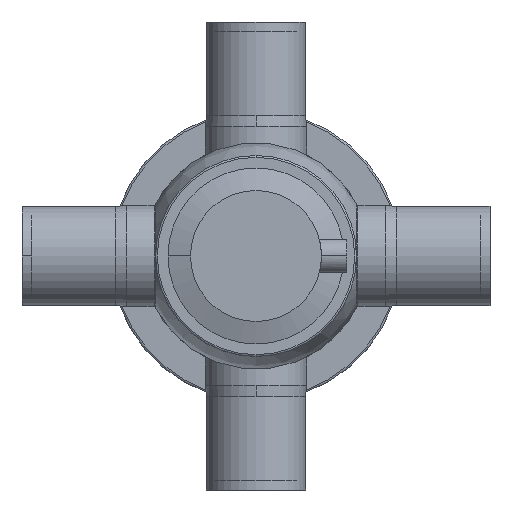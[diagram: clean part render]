
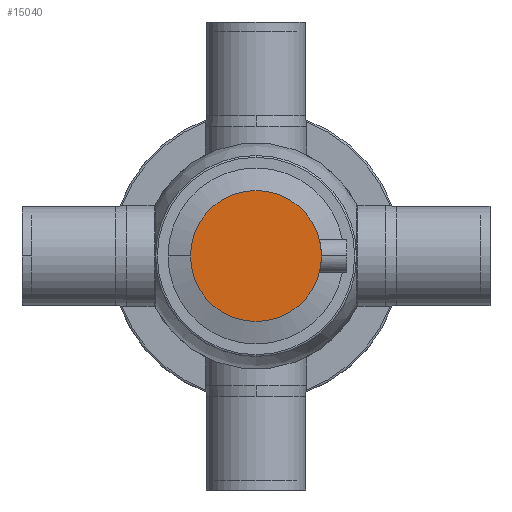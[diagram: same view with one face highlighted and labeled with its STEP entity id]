
A CAD part, front view. The second image highlights one B-rep face of the part: STEP entity #15040.
In plain terms, the highlighted planar face has unit normal (0, -1, 0).
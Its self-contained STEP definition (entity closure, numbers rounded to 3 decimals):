
#9530=CARTESIAN_POINT('',(-35.,-92.85,0.));
#9540=VERTEX_POINT('',#9530);
#9570=CARTESIAN_POINT('',(0.,-92.85,0.));
#9580=DIRECTION('',(0.,-1.,0.));
#9590=DIRECTION('',(-1.,0.,0.));
#9600=AXIS2_PLACEMENT_3D('',#9570,#9580,#9590);
#9610=CIRCLE('',#9600,35.);
#9620=CARTESIAN_POINT('',(35.,-92.85,0.));
#9630=VERTEX_POINT('',#9620);
#9640=EDGE_CURVE('',#9540,#9630,#9610,.T.);
#14940=CARTESIAN_POINT('',(0.,-92.85,0.));
#14950=DIRECTION('',(0.,-1.,0.));
#14960=DIRECTION('',(-1.,0.,0.));
#14970=AXIS2_PLACEMENT_3D('',#14940,#14950,#14960);
#14980=PLANE('',#14970);
#14990=EDGE_CURVE('',#9630,#9540,#9610,.T.);
#15000=ORIENTED_EDGE('',*,*,#14990,.T.);
#15010=ORIENTED_EDGE('',*,*,#9640,.T.);
#15020=EDGE_LOOP('',(#15010,#15000));
#15030=FACE_OUTER_BOUND('',#15020,.T.);
#15040=ADVANCED_FACE('',(#15030),#14980,.T.);
